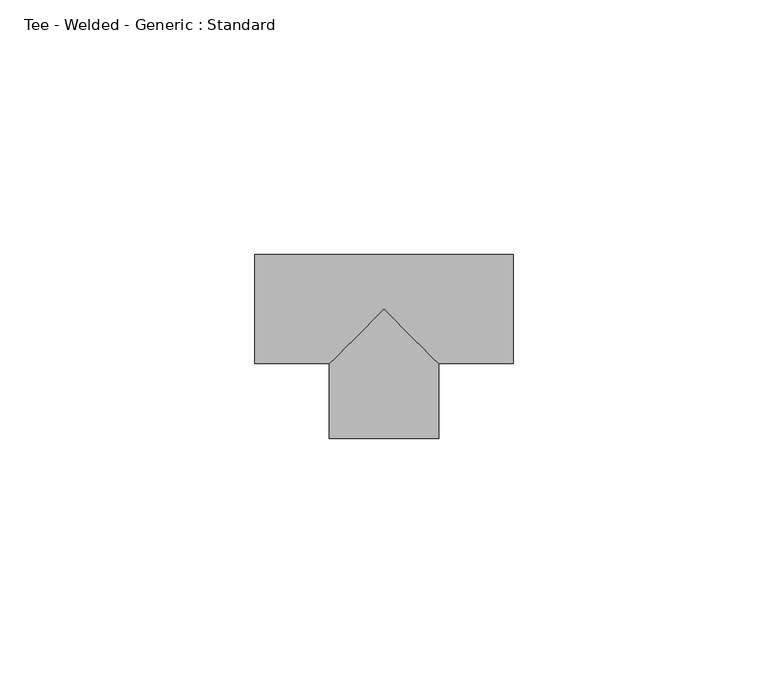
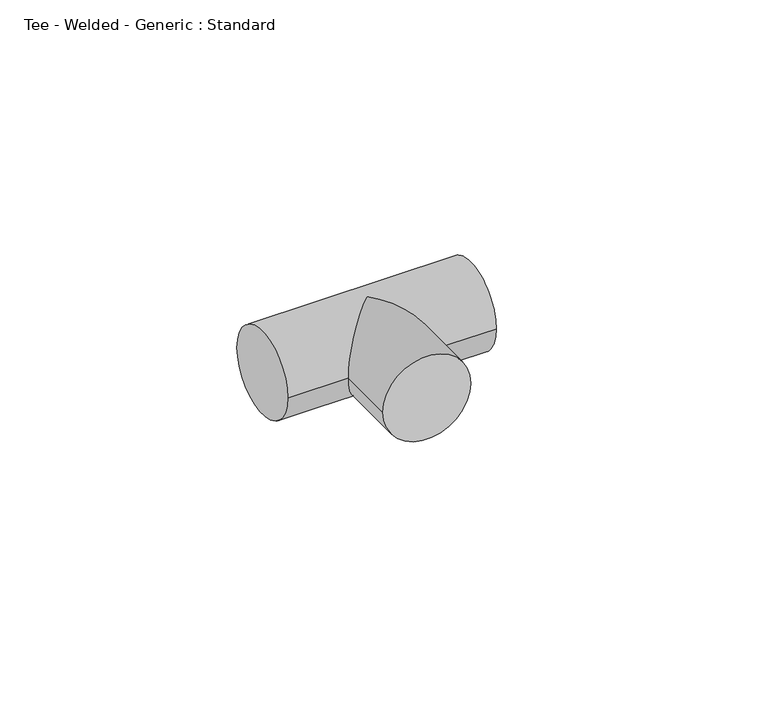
"""IFC4 building model written with IfcOpenShell, lengths in millimetres: pipe fitting geometry, Tee - Welded - Generic : Standard."""

from ifc_helpers import new_model, si_unit, frame, origin, place, context, project, spatial, circle_curve, ellipse_curve, source, transform, mapped, element, save
from ifc_brep_helpers import plane_surface, cylinder_surface, advanced_brep


def tee_welded_generic_standard_39c2620e(model_context):
    return source(origin(), model_context, "Body", "AdvancedBrep", [
        advanced_brep(
        [(-25.4, -10.715625, 0.0), (-25.4, 10.715625, 0.0), (25.4, -10.715625, 0.0), (25.4, 10.715625, 0.0), (-10.7141427, -10.715625, 0.0), (0.0, 0.0, 10.715625), (10.7171075, -10.715625, 0.0), (0.0, 0.0, -10.715625), (-10.712111, -25.4014822, 0.0), (10.7191387, -25.3985174, 0.0)],
        [
            (0, 1, circle_curve(frame((-25.4, 0.0, 0.0), z_axis=(-1.0, 0.0, 0.0), x_axis=(0.0, 1.0, 0.0)), 10.715625)),
            (1, 0, circle_curve(frame((-25.4, 0.0, 0.0), z_axis=(-1.0, 0.0, 0.0), x_axis=(0.0, 1.0, 0.0)), 10.715625)),
            (2, 3, circle_curve(frame((25.4, 0.0, 0.0), z_axis=(1.0, 0.0, 0.0), x_axis=(0.0, 1.0, 0.0)), 10.715625)),
            (3, 2, circle_curve(frame((25.4, 0.0, 0.0), z_axis=(1.0, 0.0, 0.0), x_axis=(0.0, 1.0, 0.0)), 10.715625)),
            (0, 4),
            (4, 5, ellipse_curve(frame((0.0, 0.0, 0.0), z_axis=(-0.7071556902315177, 0.7070578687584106, 0.0), x_axis=(-0.7070578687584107, -0.7071556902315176, 0.0)), 15.1531341, 10.715625)),
            (5, 6, ellipse_curve(frame((0.0, 0.0, 0.0), z_axis=(0.7070578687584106, 0.7071556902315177, 0.0), x_axis=(-0.7071556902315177, 0.7070578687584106, 0.0)), 15.1552305, 10.715625)),
            (6, 2),
            (3, 1),
            (6, 7, ellipse_curve(frame((0.0, 0.0, 0.0), z_axis=(0.7070578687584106, 0.7071556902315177, 0.0), x_axis=(-0.7071556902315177, 0.7070578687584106, 0.0)), 15.1552305, 10.715625)),
            (7, 4, ellipse_curve(frame((0.0, 0.0, 0.0), z_axis=(-0.7071556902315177, 0.7070578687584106, 0.0), x_axis=(-0.7070578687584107, -0.7071556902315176, 0.0)), 15.1531341, 10.715625)),
            (8, 9, circle_curve(frame((0.0035138, -25.3999998, 0.0), z_axis=(0.00013834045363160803, -0.9999999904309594, 0.0), x_axis=(0.9999999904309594, 0.00013834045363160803, 0.0)), 10.715625)),
            (9, 8, circle_curve(frame((0.0035138, -25.3999998, 0.0), z_axis=(0.00013834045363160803, -0.9999999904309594, 0.0), x_axis=(0.9999999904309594, 0.00013834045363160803, 0.0)), 10.715625)),
            (9, 6),
            (4, 8),
        ],
        [
            plane_surface(frame((-25.4, 0.0, 0.0), z_axis=(-1.0, 0.0, 0.0), x_axis=(0.0, 0.0, 1.0))),
            plane_surface(frame((25.4, 0.0, 0.0), z_axis=(1.0, 0.0, 0.0), x_axis=(0.0, 0.0, 1.0))),
            cylinder_surface(frame((-25.4, 0.0, 0.0), z_axis=(-1.0, 0.0, 0.0), x_axis=(0.0, 1.0, 0.0)), 10.715625),
            plane_surface(frame((0.0035138, -25.3999998, 0.0), z_axis=(0.00013834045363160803, -0.9999999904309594, 0.0), x_axis=(0.0, 0.0, 1.0))),
            cylinder_surface(frame((0.0, 0.0, 0.0), z_axis=(-0.00013834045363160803, 0.9999999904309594, 0.0), x_axis=(0.9999999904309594, 0.00013834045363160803, 0.0)), 10.715625),
        ],
        [
            (0, [[1, 2]]),
            (1, [[3, 4]]),
            (2, [[-1, 5, 6, 7, 8, -4, 9]]),
            (2, [[-2, -9, -3, -8, 10, 11, -5]]),
            (3, [[12, 13]]),
            (4, [[-13, 14, -7, -6, 15]]),
            (4, [[-12, -15, -11, -10, -14]]),
        ],
    ),
    ])


if __name__ == "__main__":
    model = new_model("IFC4")
    model_context = context("Model", 3, world=origin())
    ifc_project = project(units=[si_unit("LENGTHUNIT", "METRE", prefix="MILLI")], contexts=[model_context])
    site = spatial("IfcSite", under=ifc_project)
    building = spatial("IfcBuilding", under=site)
    placement = place(None, origin())
    tee_welded_generic_standard_shape = tee_welded_generic_standard_39c2620e(model_context)
    element("IfcPipeFitting", 1, ObjectType="Tee - Welded - Generic : Standard", at=placement, inside=building, context=model_context, shape_type="MappedRepresentation", body=[
        mapped(tee_welded_generic_standard_shape, transform((0.0, 0.0, 0.0), x_axis=(1.0, 0.0, 0.0), y_axis=(0.0, 1.0, 0.0), z_axis=(0.0, 0.0, 1.0))),
    ])
    save(model, "model.ifc")
